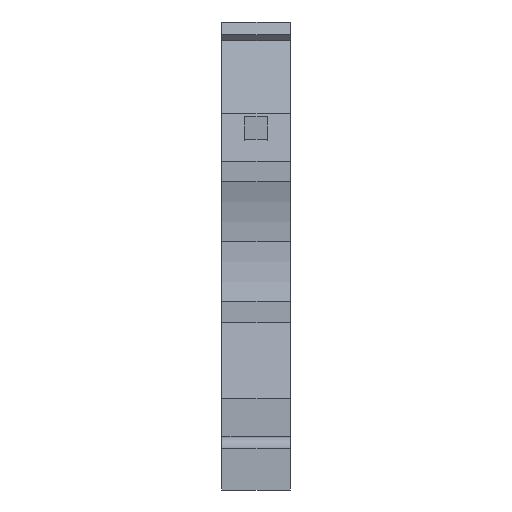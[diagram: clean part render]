
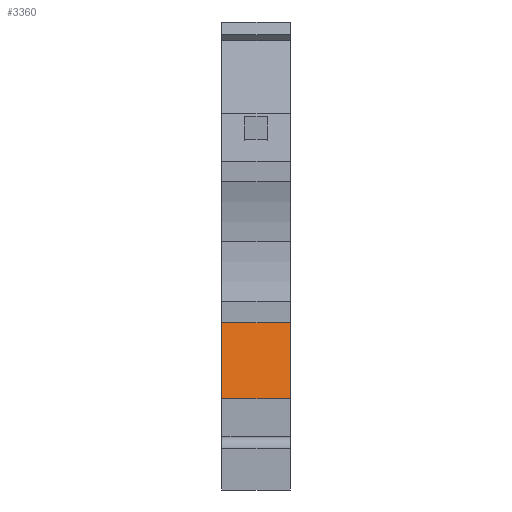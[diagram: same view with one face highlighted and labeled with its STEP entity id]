
A CAD part, front view. The second image highlights one B-rep face of the part: STEP entity #3360.
In plain terms, the highlighted planar face has unit normal (0, -0.985, 0.174).
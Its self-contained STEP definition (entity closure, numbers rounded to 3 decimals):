
#562=CARTESIAN_POINT('',(5.15,4.612,12.6));
#563=VERTEX_POINT('',#562);
#570=CARTESIAN_POINT('',(5.15,3.6,6.862));
#571=VERTEX_POINT('',#570);
#572=CARTESIAN_POINT('',(5.15,3.6,6.862));
#573=DIRECTION('',(0.,0.174,0.985));
#574=VECTOR('',#573,5.827);
#575=LINE('',#572,#574);
#576=EDGE_CURVE('',#571,#563,#575,.T.);
#928=CARTESIAN_POINT('',(-0.,3.6,6.862));
#929=VERTEX_POINT('',#928);
#936=CARTESIAN_POINT('',(-0.,4.612,12.6));
#937=VERTEX_POINT('',#936);
#938=CARTESIAN_POINT('',(-0.,3.6,6.862));
#939=DIRECTION('',(0.,0.174,0.985));
#940=VECTOR('',#939,5.827);
#941=LINE('',#938,#940);
#942=EDGE_CURVE('',#929,#937,#941,.T.);
#3339=CARTESIAN_POINT('',(5.15,3.801,8.));
#3340=DIRECTION('',(0.,-0.985,0.174));
#3341=DIRECTION('',(1.,-0.,-0.));
#3342=AXIS2_PLACEMENT_3D('',#3339,#3340,#3341);
#3343=PLANE('',#3342);
#3344=ORIENTED_EDGE('',*,*,#576,.T.);
#3345=CARTESIAN_POINT('',(5.15,4.612,12.6));
#3346=DIRECTION('',(-1.,0.,0.));
#3347=VECTOR('',#3346,5.15);
#3348=LINE('',#3345,#3347);
#3349=EDGE_CURVE('',#563,#937,#3348,.T.);
#3350=ORIENTED_EDGE('',*,*,#3349,.T.);
#3351=ORIENTED_EDGE('',*,*,#942,.F.);
#3352=CARTESIAN_POINT('',(-0.,3.6,6.862));
#3353=DIRECTION('',(1.,-0.,-0.));
#3354=VECTOR('',#3353,5.15);
#3355=LINE('',#3352,#3354);
#3356=EDGE_CURVE('',#929,#571,#3355,.T.);
#3357=ORIENTED_EDGE('',*,*,#3356,.T.);
#3358=EDGE_LOOP('',(#3344,#3350,#3351,#3357));
#3359=FACE_BOUND('',#3358,.T.);
#3360=ADVANCED_FACE('',(#3359),#3343,.T.);
